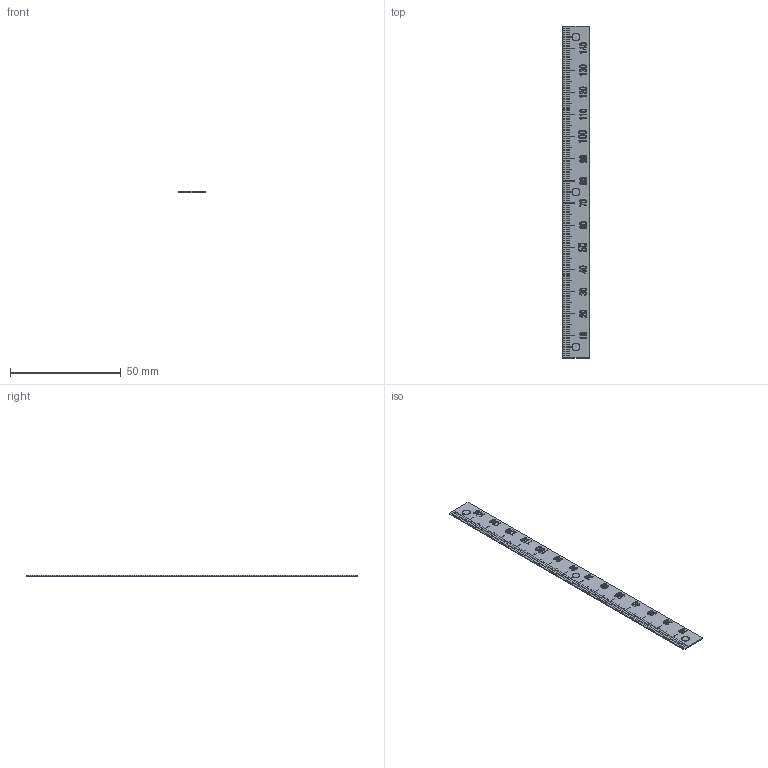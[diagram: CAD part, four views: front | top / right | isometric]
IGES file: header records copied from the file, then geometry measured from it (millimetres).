
Start section: SolidWorks IGES file using analytic representation for surfaces
Global section: file name: Y:\5.更新分\2023年対応\04xx_ALL\E\ES1N-U150R\es1n-u150r.IGS; native system: SolidWorks 2021; preprocessor: SolidWorks 2021; author: ImaoCorp; date: 230615.160341; units: millimetre
Bounding box: 12 x 150 x 0.5 mm (x, y, z)
Surface area: 3776.7 mm2 (no closed solid volume)
Topology: 0 solids, 0 shells, 1191 faces, 12506 edges, 12506 vertices
Faces by surface type: bspline 1179, revolution 12
